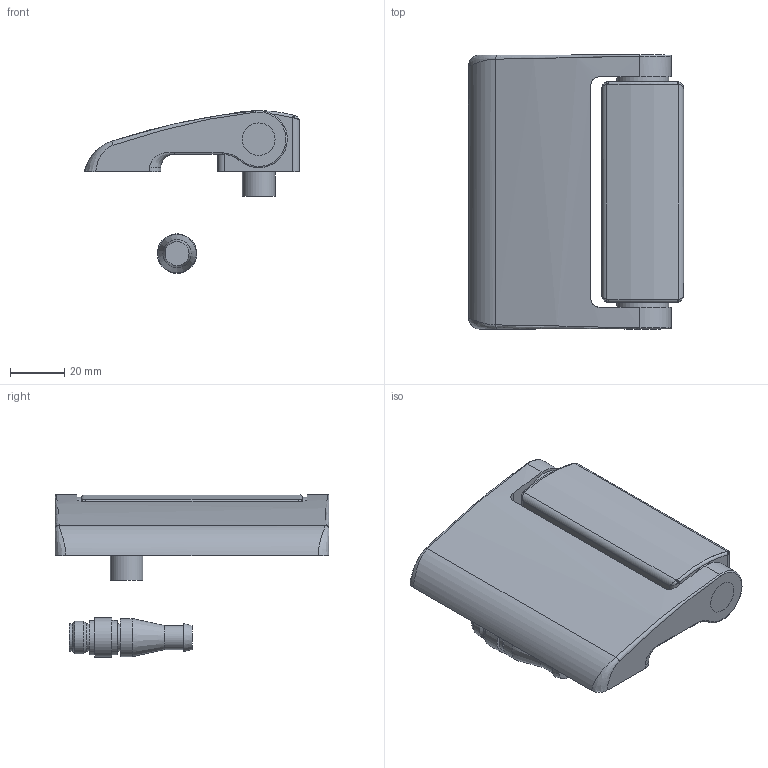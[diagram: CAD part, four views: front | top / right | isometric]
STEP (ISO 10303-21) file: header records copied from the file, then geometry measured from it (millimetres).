
FILE_DESCRIPTION((''),'2;1');
FILE_NAME('M:\INVENTORjob\Konstruktion\Sicherheitsschalter\ipt iam Modelle\April 2012\S410-M4-CB02M12-W\S410-M4-CB02M12-W.stp','2012-04-16T10:19:45',('sloesch'),(''),'Autodesk Inventor 2009','Autodesk Inventor 2009','');
FILE_SCHEMA(('AUTOMOTIVE_DESIGN { 1 0 10303 214 1 1 1 1 }'));
Length unit declared in the file: millimetre
Products named in the file (5): S410-M4-CB02M12-W_; 3240; ZF_STEP_HP_AB0xxx-xPx_A09; 711; 811
Assembly tree (4 placements, depth 3):
  S410-M4-CB02M12-W_
    3240
    ZF_STEP_HP_AB0xxx-xPx_A09
      711
      811
Bounding box: 79 x 100.6 x 59.75 mm (x, y, z)
Volume: 107018.5 mm3; surface area: 29419.9 mm2
Topology: 3 solids, 3 shells, 122 faces, 288 edges, 179 vertices
Faces by surface type: cylinder 54, plane 37, bspline 15, cone 10, torus 5, sphere 1
Full cylindrical faces by diameter (mm): 4.2 x4, 4.65 x2, 5.2 x2, 8.3 x1, 8.8 x1, 10 x3, 12 x6, 12.6 x2, 14 x1, 14.5 x1, 19 x2
Entity records: 5186 total; most frequent: CARTESIAN_POINT 2544, DIRECTION 546, ORIENTED_EDGE 466, AXIS2_PLACEMENT_3D 236, EDGE_CURVE 233, EDGE_LOOP 172, VERTEX_POINT 163, FACE_OUTER_BOUND 122
